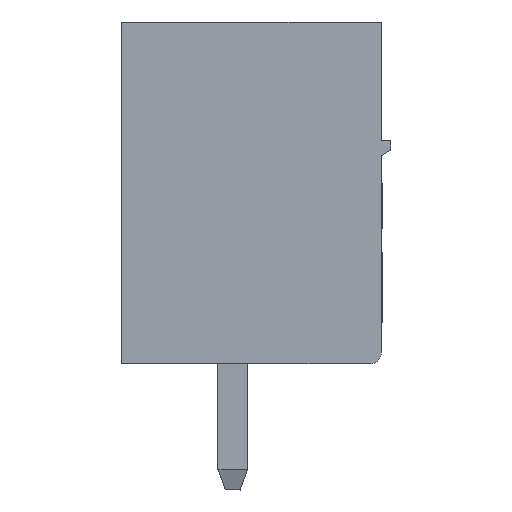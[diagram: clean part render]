
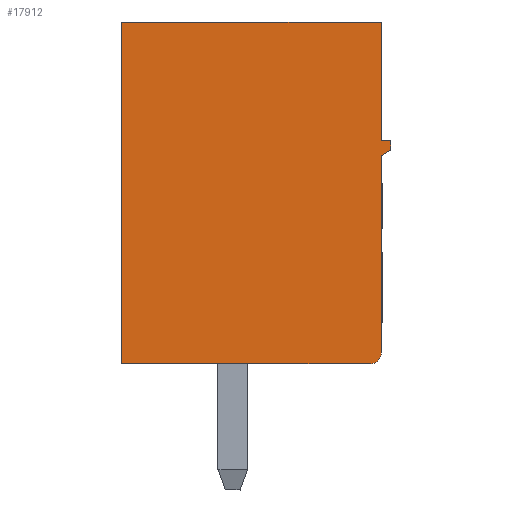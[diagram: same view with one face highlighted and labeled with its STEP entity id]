
A CAD part, left-side view. The second image highlights one B-rep face of the part: STEP entity #17912.
In plain terms, the highlighted planar face has unit normal (-1, 0, 0).
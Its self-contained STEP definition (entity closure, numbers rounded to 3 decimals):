
#49 = EDGE_CURVE ( 'NONE', #16386, #10866, #15782, .T. ) ;
#456 = LINE ( 'NONE', #18479, #3955 ) ;
#1028 = ORIENTED_EDGE ( 'NONE', *, *, #13130, .F. ) ;
#1510 = CIRCLE ( 'NONE', #11773, 0.3 ) ;
#1985 = VERTEX_POINT ( 'NONE', #10993 ) ;
#2056 = ORIENTED_EDGE ( 'NONE', *, *, #13384, .F. ) ;
#2415 = CARTESIAN_POINT ( 'NONE',  ( 2.274, 4.938, 7.938 ) ) ;
#2433 = VECTOR ( 'NONE', #18957, 1000. ) ;
#2654 = CARTESIAN_POINT ( 'NONE',  ( 2.274, 12.188, 2.188 ) ) ;
#3405 = LINE ( 'NONE', #8590, #20409 ) ;
#3642 = CARTESIAN_POINT ( 'NONE',  ( 2.274, 5.188, 2.188 ) ) ;
#3955 = VECTOR ( 'NONE', #17348, 1000. ) ;
#4225 = ORIENTED_EDGE ( 'NONE', *, *, #21698, .F. ) ;
#4232 = AXIS2_PLACEMENT_3D ( 'NONE', #19825, #11303, #4291 ) ;
#4291 = DIRECTION ( 'NONE',  ( 0., -1., 0. ) ) ;
#4397 = CARTESIAN_POINT ( 'NONE',  ( 2.274, 12.188, 11.388 ) ) ;
#4865 = CARTESIAN_POINT ( 'NONE',  ( 2.274, 4.938, 7.938 ) ) ;
#4982 = ORIENTED_EDGE ( 'NONE', *, *, #17856, .T. ) ;
#5419 = EDGE_CURVE ( 'NONE', #13513, #17674, #3405, .T. ) ;
#5426 = LINE ( 'NONE', #3642, #18396 ) ;
#7172 = LINE ( 'NONE', #2415, #7427 ) ;
#7427 = VECTOR ( 'NONE', #12585, 1000. ) ;
#7529 = CARTESIAN_POINT ( 'NONE',  ( 2.274, 5.188, 7.788 ) ) ;
#7693 = DIRECTION ( 'NONE',  ( 0., 0., 1. ) ) ;
#8080 = CARTESIAN_POINT ( 'NONE',  ( 2.274, 12.188, 11.388 ) ) ;
#8448 = ORIENTED_EDGE ( 'NONE', *, *, #15962, .F. ) ;
#8450 = DIRECTION ( 'NONE',  ( 1., 0., 0. ) ) ;
#8590 = CARTESIAN_POINT ( 'NONE',  ( 2.274, 5.688, 2.188 ) ) ;
#9169 = LINE ( 'NONE', #22199, #2433 ) ;
#9266 = CARTESIAN_POINT ( 'NONE',  ( 2.274, 12.188, 2.188 ) ) ;
#9417 = VERTEX_POINT ( 'NONE', #7529 ) ;
#9447 = CARTESIAN_POINT ( 'NONE',  ( 2.274, 4.938, 8.188 ) ) ;
#9480 = FACE_OUTER_BOUND ( 'NONE', #12968, .T. ) ;
#10280 = VERTEX_POINT ( 'NONE', #19072 ) ;
#10777 = EDGE_CURVE ( 'NONE', #1985, #9417, #9169, .T. ) ;
#10866 = VERTEX_POINT ( 'NONE', #13687 ) ;
#10993 = CARTESIAN_POINT ( 'NONE',  ( 2.274, 5.188, 2.488 ) ) ;
#11031 = VERTEX_POINT ( 'NONE', #9447 ) ;
#11303 = DIRECTION ( 'NONE',  ( -1., 0., 0. ) ) ;
#11773 = AXIS2_PLACEMENT_3D ( 'NONE', #17286, #8450, #18936 ) ;
#12329 = EDGE_CURVE ( 'NONE', #11031, #18591, #15300, .T. ) ;
#12518 = ORIENTED_EDGE ( 'NONE', *, *, #49, .F. ) ;
#12561 = VECTOR ( 'NONE', #16154, 1000. ) ;
#12585 = DIRECTION ( 'NONE',  ( 0., 0.857, -0.514 ) ) ;
#12968 = EDGE_LOOP ( 'NONE', ( #13454, #8448, #16859, #4225, #15989, #1028, #4982, #12518, #2056 ) ) ;
#13130 = EDGE_CURVE ( 'NONE', #10280, #11031, #456, .T. ) ;
#13384 = EDGE_CURVE ( 'NONE', #13513, #16386, #14977, .T. ) ;
#13454 = ORIENTED_EDGE ( 'NONE', *, *, #5419, .T. ) ;
#13513 = VERTEX_POINT ( 'NONE', #2654 ) ;
#13630 = DIRECTION ( 'NONE',  ( 0., -1., 0. ) ) ;
#13687 = CARTESIAN_POINT ( 'NONE',  ( 2.274, 5.188, 11.388 ) ) ;
#14583 = DIRECTION ( 'NONE',  ( 0., 0., 1. ) ) ;
#14977 = LINE ( 'NONE', #9266, #21476 ) ;
#15300 = LINE ( 'NONE', #19974, #15839 ) ;
#15782 = LINE ( 'NONE', #4397, #12561 ) ;
#15839 = VECTOR ( 'NONE', #18307, 1000. ) ;
#15962 = EDGE_CURVE ( 'NONE', #1985, #17674, #1510, .T. ) ;
#15989 = ORIENTED_EDGE ( 'NONE', *, *, #12329, .F. ) ;
#16154 = DIRECTION ( 'NONE',  ( 0., -1., 0. ) ) ;
#16386 = VERTEX_POINT ( 'NONE', #8080 ) ;
#16859 = ORIENTED_EDGE ( 'NONE', *, *, #10777, .T. ) ;
#17286 = CARTESIAN_POINT ( 'NONE',  ( 2.274, 5.488, 2.488 ) ) ;
#17348 = DIRECTION ( 'NONE',  ( 0., -1., 0. ) ) ;
#17674 = VERTEX_POINT ( 'NONE', #20383 ) ;
#17856 = EDGE_CURVE ( 'NONE', #10280, #10866, #5426, .T. ) ;
#17912 = ADVANCED_FACE ( 'NONE', ( #9480 ), #18233, .T. ) ;
#18233 = PLANE ( 'NONE',  #4232 ) ;
#18307 = DIRECTION ( 'NONE',  ( 0., 0., -1. ) ) ;
#18396 = VECTOR ( 'NONE', #14583, 1000. ) ;
#18479 = CARTESIAN_POINT ( 'NONE',  ( 2.274, 5.188, 8.188 ) ) ;
#18591 = VERTEX_POINT ( 'NONE', #4865 ) ;
#18936 = DIRECTION ( 'NONE',  ( 0., 0., 1. ) ) ;
#18957 = DIRECTION ( 'NONE',  ( 0., 0., 1. ) ) ;
#19072 = CARTESIAN_POINT ( 'NONE',  ( 2.274, 5.188, 8.188 ) ) ;
#19825 = CARTESIAN_POINT ( 'NONE',  ( 2.274, 5.688, 2.188 ) ) ;
#19974 = CARTESIAN_POINT ( 'NONE',  ( 2.274, 4.938, 8.188 ) ) ;
#20383 = CARTESIAN_POINT ( 'NONE',  ( 2.274, 5.488, 2.188 ) ) ;
#20409 = VECTOR ( 'NONE', #13630, 1000. ) ;
#21476 = VECTOR ( 'NONE', #7693, 1000. ) ;
#21698 = EDGE_CURVE ( 'NONE', #18591, #9417, #7172, .T. ) ;
#22199 = CARTESIAN_POINT ( 'NONE',  ( 2.274, 5.188, 2.188 ) ) ;
